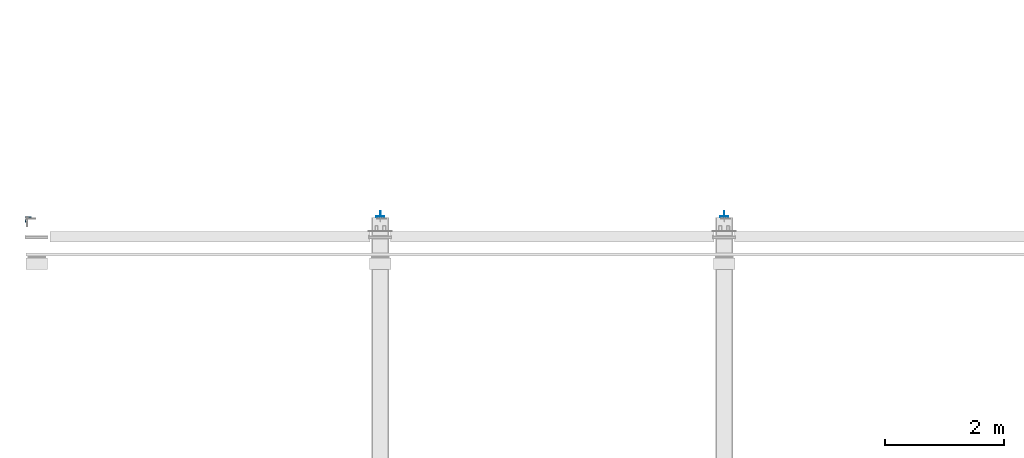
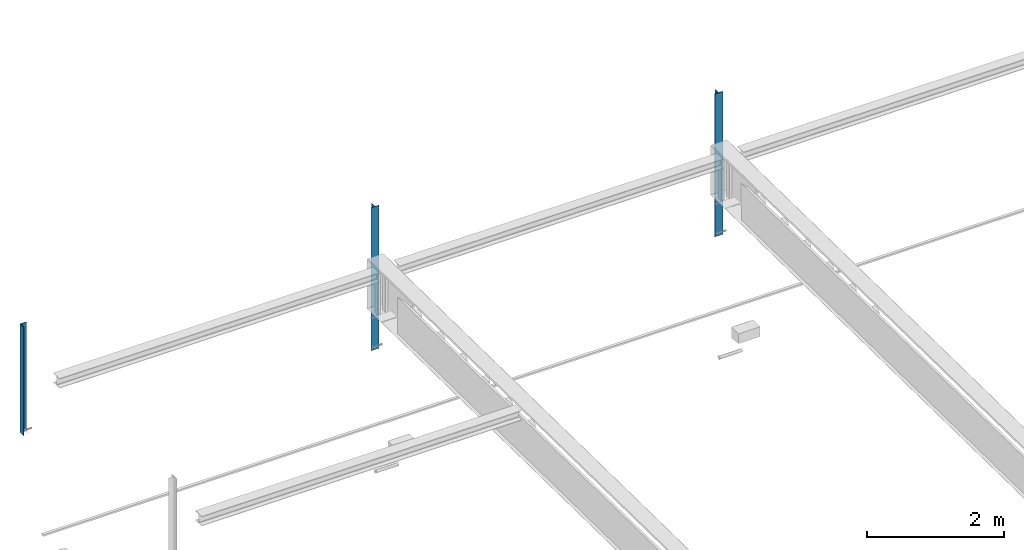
# One storey, part 130 of 186: 3 beams.
"""IFC4X3_ADD2 building model written with IfcOpenShell, lengths in millimetres."""

import ifcopenshell
import ifcopenshell.guid

model = None  # the IFC model being written
_history = None  # IfcOwnerHistory: only IFC2X3 demands one
_inside = {}  # id of a spatial element -> (the spatial element, [elements in it])
_under = {}  # id of a project, library or spatial element -> (it, [spatial elements below it])
_declared = {}  # id of a project -> (the project, [libraries it declares])
_typed = {}  # id of a type object -> (the type object, [elements of that type])
_made_of = {}  # id of a material, layer set ... -> (it, [elements and type objects made of it])


def new_model(schema):
    """Start an empty IFC model of exactly this schema.

    Asked for "IFC4X3", IfcOpenShell would pick the latest addendum, in which some entities
    have other attributes; the version numbers below select the first issue.
    IFC2X3 requires an IfcOwnerHistory on every rooted entity: one is made here for all.
    """
    global model, _history
    if schema == "IFC4X3":
        model = ifcopenshell.file(schema_version=(4, 3, 0, 0))
    else:
        model = ifcopenshell.file(schema=schema)
    _inside.clear()
    _under.clear()
    _declared.clear()
    _typed.clear()
    _made_of.clear()
    _history = None
    if model.schema == "IFC2X3":
        org = make("IfcOrganization", Name="unknown")
        user = make(
            "IfcPersonAndOrganization",
            ThePerson=make("IfcPerson", FamilyName="unknown"),
            TheOrganization=org,
        )
        app = make(
            "IfcApplication",
            ApplicationDeveloper=org,
            Version="unknown",
            ApplicationFullName="unknown",
            ApplicationIdentifier="unknown",
        )
        _history = make(
            "IfcOwnerHistory",
            OwningUser=user,
            OwningApplication=app,
            ChangeAction="ADDED",
            CreationDate=0,
        )
    return model


def make(cls, **values):
    """One entity of the class cls with the attributes given. An attribute that is None is left unset."""
    return model.create_entity(
        cls, **{name: value for name, value in values.items() if value is not None}
    )


def rooted(cls, **values):
    """An entity with a GlobalId (a new one), such as an element, a storey or a relation."""
    return make(cls, GlobalId=ifcopenshell.guid.new(), OwnerHistory=_history, **values)


def si_unit(unit_type, name, prefix=None):
    """IfcSIUnit, for example si_unit("LENGTHUNIT", "METRE", prefix="MILLI")."""
    return make("IfcSIUnit", UnitType=unit_type, Prefix=prefix, Name=name)


def assignment(units):
    """IfcUnitAssignment: the units of a project."""
    return None if units is None else make("IfcUnitAssignment", Units=units)


def point(xyz):
    """IfcCartesianPoint."""
    return None if xyz is None else make("IfcCartesianPoint", Coordinates=xyz)


def direction(xyz):
    """IfcDirection."""
    return None if xyz is None else make("IfcDirection", DirectionRatios=xyz)


def frame(location, z_axis=None, x_axis=None):
    """IfcAxis2Placement3D, a coordinate frame: its origin and axes. An axis left out is left unset."""
    return make(
        "IfcAxis2Placement3D",
        Location=point(location),
        Axis=direction(z_axis),
        RefDirection=direction(x_axis),
    )


def origin_with_axes():
    """The frame at (0, 0, 0) with the z axis (0, 0, 1) and the x axis (1, 0, 0) written out."""
    return frame((0.0, 0.0, 0.0), z_axis=(0.0, 0.0, 1.0), x_axis=(1.0, 0.0, 0.0))


def place(relative_to, where):
    """IfcLocalPlacement: puts the frame where relative to a parent placement (None: the world)."""
    return make(
        "IfcLocalPlacement", PlacementRelTo=relative_to, RelativePlacement=where
    )


def context(
    kind, dimensions, precision=None, world=None, true_north=None, identifier=None
):
    """IfcGeometricRepresentationContext, for example the 3D "Model" context."""
    return make(
        "IfcGeometricRepresentationContext",
        ContextIdentifier=identifier,
        ContextType=kind,
        CoordinateSpaceDimension=dimensions,
        Precision=precision,
        WorldCoordinateSystem=world,
        TrueNorth=true_north,
    )


def subcontext(parent, identifier, kind, view, scale=None):
    """IfcGeometricRepresentationSubContext, for example "Body" below "Model"."""
    return make(
        "IfcGeometricRepresentationSubContext",
        ContextIdentifier=identifier,
        ContextType=kind,
        ParentContext=parent,
        TargetScale=scale,
        TargetView=view,
    )


def project(units=None, contexts=None):
    """IfcProject with its units and contexts."""
    return rooted(
        "IfcProject",
        Name="project",
        RepresentationContexts=contexts,
        UnitsInContext=assignment(units),
    )


def spatial(cls, under=None, at=None, **own):
    """A site, building, storey or space (cls), placed at a placement, below another one or the project."""
    s = rooted(cls, ObjectPlacement=at, **own)
    if under is not None:
        _under.setdefault(under.id(), (under, []))[1].append(s)
    return s


def point_list(points):
    """IfcCartesianPointList2D or 3D."""
    cls = (
        "IfcCartesianPointList2D" if len(points[0]) == 2 else "IfcCartesianPointList3D"
    )
    return make(cls, CoordList=points)


def polygons(points, faces, closed=None, point_numbers=None):
    """IfcPolygonalFaceSet: a face is its outer loop, then its inner loops; points numbered from 1."""
    made = []
    for loops in faces:
        if len(loops) == 1:
            made.append(make("IfcIndexedPolygonalFace", CoordIndex=loops[0]))
        else:
            made.append(
                make(
                    "IfcIndexedPolygonalFaceWithVoids",
                    CoordIndex=loops[0],
                    InnerCoordIndices=loops[1:],
                )
            )
    return make(
        "IfcPolygonalFaceSet",
        Coordinates=point_list(points),
        Closed=closed,
        Faces=made,
        PnIndex=point_numbers,
    )


def shape(context_of_items, identifier, shape_type, items):
    """IfcShapeRepresentation: the items that make up one representation, for example the "Body"."""
    return make(
        "IfcShapeRepresentation",
        ContextOfItems=context_of_items,
        RepresentationIdentifier=identifier,
        RepresentationType=shape_type,
        Items=items,
    )


def made_of(thing, what):
    """Note that an element or type object is made of a material, layer set ...; save() writes the relation."""
    if what is not None:
        _made_of.setdefault(what.id(), (what, []))[1].append(thing)
    return thing


def element(
    cls,
    number,
    at=None,
    inside=None,
    cuts=None,
    type_object=None,
    material=None,
    context=None,
    identifier="Body",
    shape_type=None,
    held_by="IfcProductDefinitionShape",
    body=None,
    shapes=None,
    **own,
):
    """One element of the class cls, such as IfcWall. Its Tag is "e" and its number.

    at: its placement. inside: the storey or other place that contains it. cuts: it is an
    opening in that element (IfcRelVoidsElement). A single representation is given by context,
    identifier, shape_type and body (its items); several are given by shapes. held_by: the class
    of the entity that holds the representations. save() writes the other relations.
    """
    e = rooted(cls, Tag="e%d" % number, ObjectPlacement=at, **own)
    if body is not None:
        shapes = [shape(context, identifier, shape_type, body)]
    if shapes is not None:
        e.Representation = make(held_by, Representations=shapes)
    if inside is not None:
        _inside.setdefault(inside.id(), (inside, []))[1].append(e)
    if cuts is not None:
        rooted(
            "IfcRelVoidsElement", RelatingBuildingElement=cuts, RelatedOpeningElement=e
        )
    if type_object is not None:
        _typed.setdefault(type_object.id(), (type_object, []))[1].append(e)
    return made_of(e, material)


def aggregate(whole, parts):
    """IfcRelAggregates: a whole, such as a stair, and the parts it consists of."""
    return rooted("IfcRelAggregates", RelatingObject=whole, RelatedObjects=parts)


def save(model, path):
    """Write the relations noted so far, then the file.

    IfcRelAggregates (storeys below a building ...), IfcRelContainedInSpatialStructure (elements
    in a storey), IfcRelDefinesByType, IfcRelAssociatesMaterial and IfcRelDeclares: one each for
    every whole, place, type object, material and project.
    """
    for whole, parts in _under.values():
        aggregate(whole, parts)
    for where, things in _inside.values():
        rooted(
            "IfcRelContainedInSpatialStructure",
            RelatedElements=things,
            RelatingStructure=where,
        )
    for kind, things in _typed.values():
        rooted("IfcRelDefinesByType", RelatedObjects=things, RelatingType=kind)
    for what, things in _made_of.values():
        rooted("IfcRelAssociatesMaterial", RelatedObjects=things, RelatingMaterial=what)
    for by, libraries in _declared.values():
        rooted("IfcRelDeclares", RelatingContext=by, RelatedDefinitions=libraries)
    model.write(path)


model = new_model("IFC4X3_ADD2")

# Units and contexts
model_context = context("Model", 3, precision=1e-05, world=origin_with_axes(), true_north=direction((0.0, 1.0)))
body_context = subcontext(model_context, "Body", "Model", "MODEL_VIEW")
ifc_project = project(units=[si_unit("LENGTHUNIT", "METRE", prefix="MILLI"), si_unit("AREAUNIT", "SQUARE_METRE"), si_unit("VOLUMEUNIT", "CUBIC_METRE"), si_unit("PLANEANGLEUNIT", "RADIAN"), si_unit("TIMEUNIT", "SECOND"), si_unit("MASSUNIT", "GRAM")], contexts=[model_context])

# Site, building, storey
site_placement = place(None, origin_with_axes())
site = spatial("IfcSite", under=ifc_project, at=site_placement, Name="Site", CompositionType="ELEMENT")
building_placement = place(site_placement, origin_with_axes())
building = spatial("IfcBuilding", under=site, at=building_placement, Name="IFC Building Story")
storey_placement = place(building_placement, frame((0.0, 0.0, 4370.0), z_axis=(0.0, 0.0, 1.0), x_axis=(1.0, 0.0, 0.0)))
storey = spatial("IfcBuildingStorey", under=building, at=storey_placement, Name="ETAGE 10 (1)", Elevation=4370.0)

# Beams
beam_1_placement = place(storey_placement, frame((0.0, 0.0, -4370.0), z_axis=(0.0, 0.0, 1.0), x_axis=(1.0, 0.0, 0.0)))
element("IfcBeam", 1, at=beam_1_placement, inside=storey, Name="PS6", ObjectType="HALF_IPE270_100", context=body_context, shape_type="Tessellation", body=[
    polygons([(10752.8886362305, 18088.0997253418, 9979.95), (10752.8886362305, 18088.0997253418, 7429.95), (10752.8886362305, 17998.2997251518, 7429.95), (10752.8886362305, 17998.2997251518, 9979.95), (10688.6886362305, 17998.2997251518, 7429.95), (10688.6886362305, 17998.2997251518, 9979.95), (10688.6886362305, 17988.0997253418, 7429.95), (10688.6886362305, 17988.0997253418, 9979.95), (10823.6886362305, 17988.0997253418, 7429.95), (10823.6886362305, 17988.0997253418, 9979.95), (10823.6886362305, 17998.2997251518, 7429.95), (10823.6886362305, 17998.2997251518, 9979.95), (10759.48863623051, 17998.2997251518, 7429.95), (10759.48863623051, 17998.2997251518, 9979.95), (10759.48863623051, 18088.0997253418, 7429.95), (10759.48863623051, 18088.0997253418, 9979.95)], [[[1, 2, 3, 4]], [[4, 3, 5, 6]], [[6, 5, 7, 8]], [[8, 7, 9, 10]], [[10, 9, 11, 12]], [[12, 11, 13, 14]], [[14, 13, 15, 16]], [[16, 15, 2, 1]], [[4, 6, 8]], [[4, 8, 14]], [[14, 16, 1]], [[14, 1, 4]], [[8, 10, 14]], [[10, 12, 14]], [[13, 11, 9]], [[13, 9, 3]], [[3, 2, 15]], [[3, 15, 13]], [[9, 7, 3]], [[7, 5, 3]]]),
])
beam_2_placement = place(storey_placement, frame((0.0, 0.0, -4370.0), z_axis=(0.0, 0.0, 1.0), x_axis=(1.0, 0.0, 0.0)))
element("IfcBeam", 2, at=beam_2_placement, inside=storey, Name="PS6", ObjectType="HALF_IPE270_100", context=body_context, shape_type="Tessellation", body=[
    polygons([(16552.8888269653, 18088.0997253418, 9979.94999999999), (16552.8888269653, 18088.0997253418, 7429.94999999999), (16552.8888269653, 17998.2997251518, 7429.94999999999), (16552.8888269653, 17998.2997251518, 9979.94999999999), (16488.6888269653, 17998.2997251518, 7429.94999999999), (16488.6888269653, 17998.2997251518, 9979.94999999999), (16488.6888269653, 17988.0997253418, 7429.94999999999), (16488.6888269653, 17988.0997253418, 9979.94999999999), (16623.6888269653, 17988.0997253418, 7429.94999999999), (16623.6888269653, 17988.0997253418, 9979.94999999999), (16623.6888269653, 17998.2997251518, 7429.94999999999), (16623.6888269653, 17998.2997251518, 9979.94999999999), (16559.48882696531, 17998.2997251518, 7429.94999999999), (16559.48882696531, 17998.2997251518, 9979.94999999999), (16559.48882696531, 18088.0997253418, 7429.94999999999), (16559.48882696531, 18088.0997253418, 9979.94999999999)], [[[1, 2, 3, 4]], [[4, 3, 5, 6]], [[6, 5, 7, 8]], [[8, 7, 9, 10]], [[10, 9, 11, 12]], [[12, 11, 13, 14]], [[14, 13, 15, 16]], [[16, 15, 2, 1]], [[4, 6, 8]], [[4, 8, 14]], [[14, 16, 1]], [[14, 1, 4]], [[8, 10, 14]], [[10, 12, 14]], [[13, 11, 9]], [[13, 9, 3]], [[3, 2, 15]], [[3, 15, 13]], [[9, 7, 3]], [[7, 5, 3]]]),
])
beam_3_placement = place(storey_placement, frame((0.0, 0.0, -4370.0), z_axis=(0.0, 0.0, 1.0), x_axis=(1.0, 0.0, 0.0)))
element("IfcBeam", 3, at=beam_3_placement, inside=storey, Name="PS3", ObjectType="L100/100/10", context=body_context, shape_type="Tessellation", body=[
    polygons([(4768.18934822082, 17997.9997253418, 9980.0), (4768.18934822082, 17997.9997253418, 8040.0), (4768.18934822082, 17897.9997253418, 8040.0), (4768.18934822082, 17897.9997253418, 9980.0), (4778.18934822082, 17897.9997253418, 8040.0), (4778.18934822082, 17897.9997253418, 9980.0), (4778.18934822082, 17987.9997253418, 8040.0), (4778.18934822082, 17987.9997253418, 9980.0), (4868.18934822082, 17987.9997253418, 8040.0), (4868.18934822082, 17987.9997253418, 9980.0), (4868.18934822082, 17997.9997253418, 8040.0), (4868.18934822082, 17997.9997253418, 9980.0)], [[[1, 2, 3, 4]], [[4, 3, 5, 6]], [[6, 5, 7, 8]], [[8, 7, 9, 10]], [[10, 9, 11, 12]], [[12, 11, 2, 1]], [[8, 10, 12]], [[8, 12, 1]], [[1, 4, 6]], [[1, 6, 8]], [[7, 5, 3]], [[7, 3, 2]], [[2, 11, 9]], [[2, 9, 7]]]),
])

save(model, "model.ifc")
